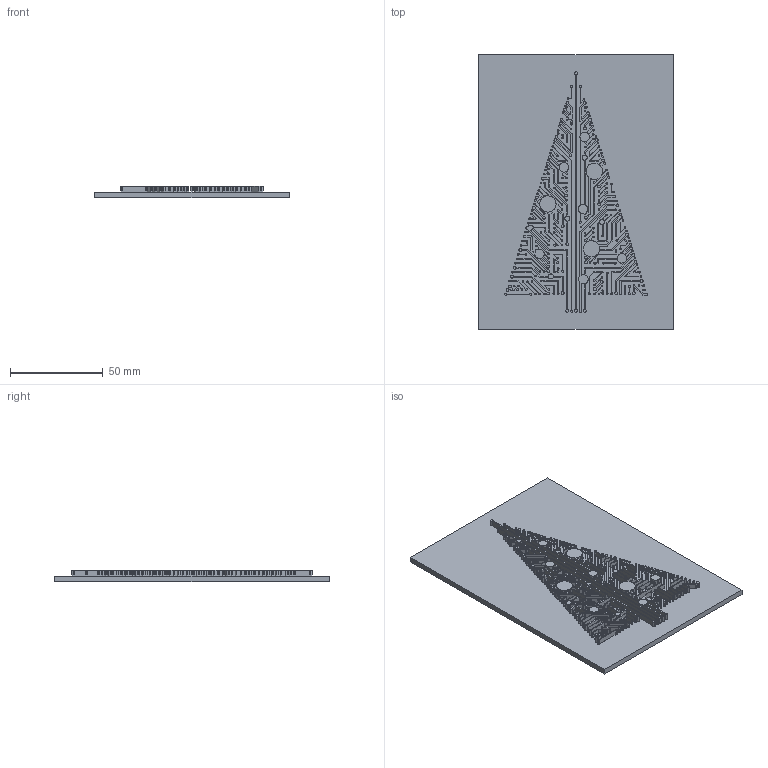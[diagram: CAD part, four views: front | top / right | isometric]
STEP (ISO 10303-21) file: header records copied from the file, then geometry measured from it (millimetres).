
FILE_DESCRIPTION(/* description */ (''),/* implementation_level */ '2;1');
FILE_NAME(/* name */ 'christmas_tree_circuit_board_card_complete.step',/* time_stamp */ '2023-12-05T07:40:41+01:00',/* author */ (''),/* organization */ (''),/* preprocessor_version */ 'ST-DEVELOPER v20',/* originating_system */ 'Autodesk Translation Framework v12.14.0.127',/* authorisation */ '');
FILE_SCHEMA (('AUTOMOTIVE_DESIGN { 1 0 10303 214 3 1 1 }'));
Products named in the file (1): christmas_tree_circuit_board_card
Bounding box: 105 x 148 x 6 mm (x, y, z)
Volume: 50732.4 mm3; surface area: 48057.5 mm2
Topology: 110 solids, 110 shells, 2062 faces, 5526 edges, 3678 vertices
Faces by surface type: bspline 1256, plane 806
Entity records: 66746 total; most frequent: CARTESIAN_POINT 27677, ORIENTED_EDGE 11052, EDGE_CURVE 5526, DIRECTION 4624, VERTEX_POINT 3678, LINE 3010, VECTOR 3010, EDGE_LOOP 2064
